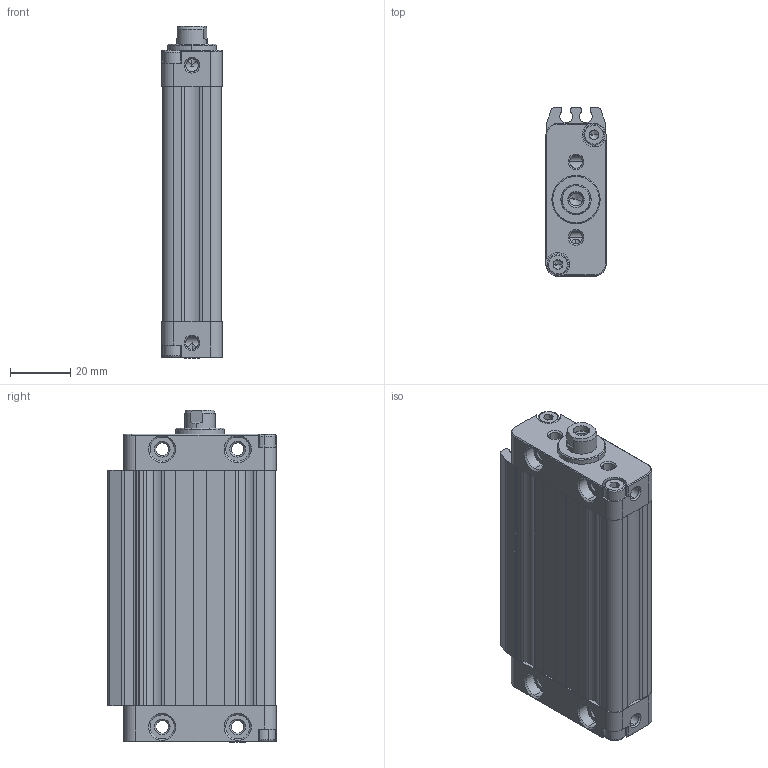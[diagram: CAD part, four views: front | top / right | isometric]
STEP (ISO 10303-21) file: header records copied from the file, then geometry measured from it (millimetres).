
FILE_DESCRIPTION (( 'STEP AP214' ), '1' );
FILE_NAME ('WOC-025-0040 (3D).STEP', '2020-05-20T15:00:54', ( '' ), ( '' ), 'SwSTEP 2.0', 'SolidWorks 2016', '' );
FILE_SCHEMA (( 'AUTOMOTIVE_DESIGN' ));
Length unit declared in the file: millimetre
Products named in the file (5): Group3^WOC-025-0040 (3D); Group1^WOC-025-0040 (3D); Group4^WOC-025-0040 (3D); WOC-025-0040 (3D); Group2^WOC-025-0040 (3D)
Assembly tree (4 placements, depth 2):
  WOC-025-0040 (3D)
    Group1^WOC-025-0040 (3D)
    Group2^WOC-025-0040 (3D)
    Group3^WOC-025-0040 (3D)
    Group4^WOC-025-0040 (3D)
Bounding box: 20 x 55.75 x 110 mm (x, y, z)
Volume: 82452.1 mm3; surface area: 36161.6 mm2
Topology: 10 solids, 10 shells, 636 faces, 1606 edges, 1023 vertices
Faces by surface type: plane 319, cylinder 141, cone 90, bspline 86
Entity records: 25692 total; most frequent: CARTESIAN_POINT 8523, ORIENTED_EDGE 3188, DIRECTION 2871, EDGE_CURVE 1594, VERTEX_POINT 1023, VECTOR 1003, LINE 1003, AXIS2_PLACEMENT_3D 934
